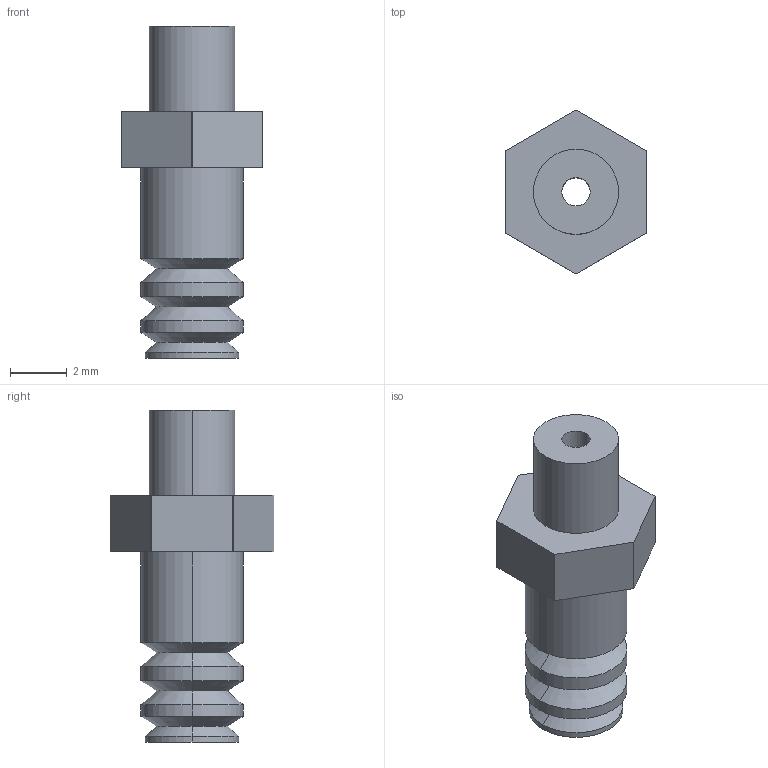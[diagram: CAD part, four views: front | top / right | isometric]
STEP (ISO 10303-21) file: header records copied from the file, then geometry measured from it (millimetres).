
FILE_DESCRIPTION (( 'STEP AP214' ), '1' );
FILE_NAME ('FSG-3-HT1-60.STEP', '2021-07-01T09:14:05', ( '微软用户' ), ( '微软中国' ), 'SwSTEP 2.0', 'SolidWorks 2018', '' );
FILE_SCHEMA (( 'AUTOMOTIVE_DESIGN' ));
Length unit declared in the file: millimetre
Products named in the file (1): FSG-3-HT1-60
Bounding box: 5 x 5.77 x 11.7 mm (x, y, z)
Volume: 111.1 mm3; surface area: 290.2 mm2
Topology: 2 solids, 2 shells, 61 faces, 132 edges, 82 vertices
Faces by surface type: cylinder 32, plane 17, cone 12
Entity records: 2394 total; most frequent: DIRECTION 326, CARTESIAN_POINT 276, ORIENTED_EDGE 264, EDGE_CURVE 132, AXIS2_PLACEMENT_3D 132, VERTEX_POINT 82, EDGE_LOOP 72, CIRCLE 70
